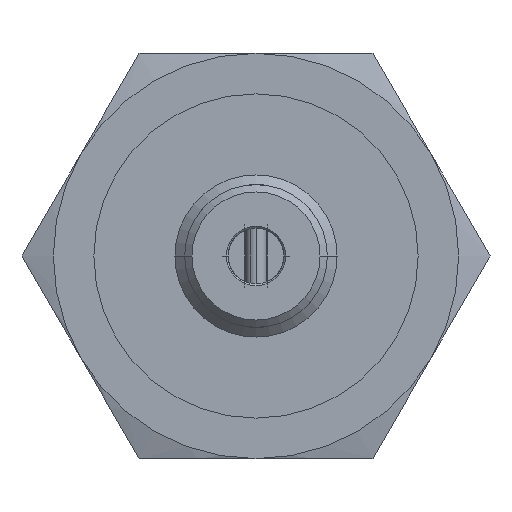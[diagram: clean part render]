
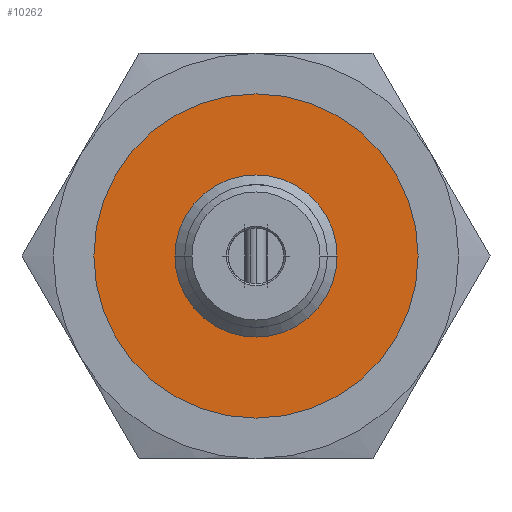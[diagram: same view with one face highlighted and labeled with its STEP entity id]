
A CAD part, left-side view. The second image highlights one B-rep face of the part: STEP entity #10262.
In plain terms, the highlighted free-form (B-spline) face has degree [1, 1] with [2, 2] control points.
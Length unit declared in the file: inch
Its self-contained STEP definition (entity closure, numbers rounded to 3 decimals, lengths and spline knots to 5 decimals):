
#4290=CARTESIAN_POINT('',(-0.42287,0.2495,0.0));
#4291=VERTEX_POINT('',#4290);
#4298=CARTESIAN_POINT('',(-0.42287,-0.2495,0.));
#4299=VERTEX_POINT('',#4298);
#4300=CARTESIAN_POINT('',(-0.42287,0.0,0.0));
#4301=DIRECTION('',(1.0,0.0,0.0));
#4302=DIRECTION('',(0.0,1.0,0.0));
#4303=AXIS2_PLACEMENT_3D('',#4300,#4301,#4302);
#4304=CIRCLE('',#4303,0.2495);
#4305=EDGE_CURVE('',#4299,#4291,#4304,.T.);
#8768=CARTESIAN_POINT('',(-0.42287,0.0,0.5));
#8769=VERTEX_POINT('',#8768);
#8785=CARTESIAN_POINT('',(-0.42287,0.,-0.5));
#8786=VERTEX_POINT('',#8785);
#8793=CARTESIAN_POINT('',(-0.42287,0.0,0.0));
#8794=DIRECTION('',(1.0,0.0,0.0));
#8795=DIRECTION('',(0.0,0.0,1.0));
#8796=AXIS2_PLACEMENT_3D('',#8793,#8794,#8795);
#8797=CIRCLE('',#8796,0.5);
#8798=EDGE_CURVE('',#8786,#8769,#8797,.T.);
#10237=CARTESIAN_POINT('',(-0.42287,-0.5,0.5));
#10238=CARTESIAN_POINT('',(-0.42287,0.5,0.5));
#10239=CARTESIAN_POINT('',(-0.42287,-0.5,-0.5));
#10240=CARTESIAN_POINT('',(-0.42287,0.5,-0.5));
#10241=B_SPLINE_SURFACE_WITH_KNOTS('',1,1,((#10237,#10239),(#10238,#10240)),.UNSPECIFIED.,.F.,.F.,.U.,(2,2),(2,2),(0.0,1.),(0.0,1.),.UNSPECIFIED.);
#10242=CARTESIAN_POINT('',(-0.42287,0.0,0.0));
#10243=DIRECTION('',(1.0,0.0,0.0));
#10244=DIRECTION('',(0.0,0.0,1.0));
#10245=AXIS2_PLACEMENT_3D('',#10242,#10243,#10244);
#10246=CIRCLE('',#10245,0.5);
#10247=EDGE_CURVE('',#8769,#8786,#10246,.T.);
#10248=ORIENTED_EDGE('',*,*,#10247,.F.);
#10249=ORIENTED_EDGE('',*,*,#8798,.F.);
#10250=EDGE_LOOP('',(#10248,#10249));
#10251=FACE_OUTER_BOUND('',#10250,.T.);
#10252=CARTESIAN_POINT('',(-0.42287,0.0,0.0));
#10253=DIRECTION('',(1.0,0.0,0.0));
#10254=DIRECTION('',(0.0,1.0,0.0));
#10255=AXIS2_PLACEMENT_3D('',#10252,#10253,#10254);
#10256=CIRCLE('',#10255,0.2495);
#10257=EDGE_CURVE('',#4291,#4299,#10256,.T.);
#10258=ORIENTED_EDGE('',*,*,#10257,.T.);
#10259=ORIENTED_EDGE('',*,*,#4305,.T.);
#10260=EDGE_LOOP('',(#10258,#10259));
#10261=FACE_BOUND('',#10260,.T.);
#10262=ADVANCED_FACE('',(#10251,#10261),#10241,.T.);
